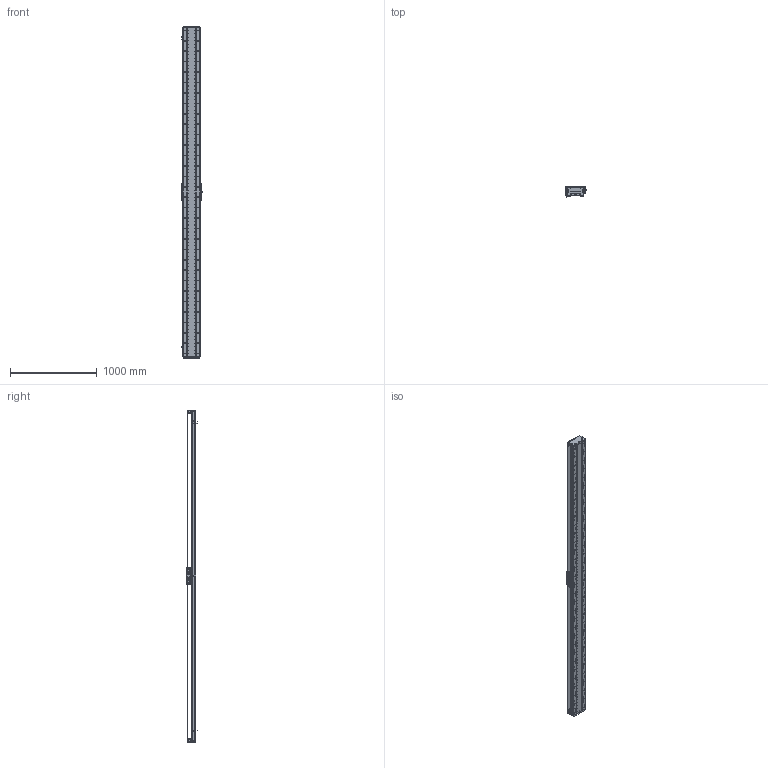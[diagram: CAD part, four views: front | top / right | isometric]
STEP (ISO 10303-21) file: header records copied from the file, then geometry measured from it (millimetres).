
FILE_DESCRIPTION (( 'STEP AP203' ), '1' );
FILE_NAME ('DA-C195-C2-T3540-C010-0.2 眻盄萇儂.STEP', '2025-08-15T01:20:23', ( '' ), ( '' ), 'SwSTEP 2.0', 'SolidWorks 2019', '' );
FILE_SCHEMA (( 'CONFIG_CONTROL_DESIGN' ));
Length unit declared in the file: millimetre
Products named in the file (15): MS200 棠掑喜S315-T1740; IU-CU195-L-00 菁釱(L3780); LMT黍杅芛; 葩璃 DA95-GT-T-00; DA195詩湍嶺輸; DA-C195-C2-T3540-C010-0.2 眻盄萇儂; CU195-C2賑輸-俋楷; DA165-GYP-00 光电感应片(默认); DA95-HXJ-00 遣喳砎蝶; DA195詩湍菜輸; DA-C195-GD-DB-H-00 傷啣; DA195詩湍裔啣; IU-CU195-L 菁釱絳寢; PM-T45ㄗ侂狟ㄘ; DA195詩湍郪璃
Assembly tree (29 placements, depth 3):
  DA-C195-C2-T3540-C010-0.2 眻盄萇儂
    DA195詩湍郪璃
      DA195詩湍菜輸  x2
      DA195詩湍裔啣
      DA195詩湍嶺輸  x2
      DA95-HXJ-00 遣喳砎蝶  x8
      DA-C195-GD-DB-H-00 傷啣  x2
    IU-CU195-L 菁釱絳寢
      IU-CU195-L-00 菁釱(L3780)
      葩璃 DA95-GT-T-00  x4
    LMT黍杅芛
    MS200 棠掑喜S315-T1740
    PM-T45ㄗ侂狟ㄘ  x3
    DA165-GYP-00 光电感应片(默认)
    CU195-C2賑輸-俋楷
Bounding box: 248 x 115.45 x 3820 mm (x, y, z)
Volume: 21086329.9 mm3; surface area: 6316698.7 mm2
Topology: 66 solids, 130 shells, 4894 faces, 14203 edges, 9015 vertices
Faces by surface type: cylinder 2855, plane 1421, cone 530, torus 52, sphere 36
Entity records: 166881 total; most frequent: CARTESIAN_POINT 48610, ORIENTED_EDGE 25290, DIRECTION 23456, EDGE_CURVE 12645, AXIS2_PLACEMENT_3D 8841, VERTEX_POINT 8217, LINE 5774, VECTOR 5774
